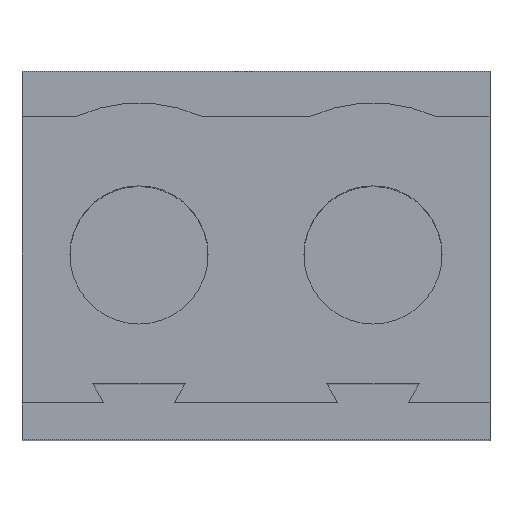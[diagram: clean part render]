
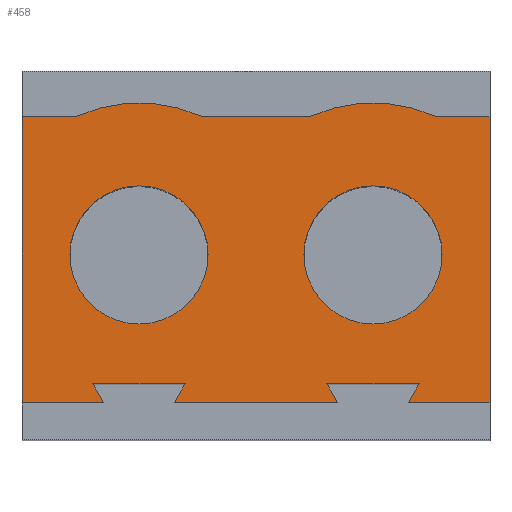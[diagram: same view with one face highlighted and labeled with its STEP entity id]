
A CAD part, top view. The second image highlights one B-rep face of the part: STEP entity #458.
In plain terms, the highlighted planar face has unit normal (0, 0, 1).
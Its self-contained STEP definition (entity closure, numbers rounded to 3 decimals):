
#87 = VERTEX_POINT('',#88);
#88 = CARTESIAN_POINT('',(-2.54,-3.2,18.9));
#94 = EDGE_CURVE('',#87,#95,#97,.T.);
#95 = VERTEX_POINT('',#96);
#96 = CARTESIAN_POINT('',(-2.54,3.,18.9));
#97 = LINE('',#98,#99);
#98 = CARTESIAN_POINT('',(-2.54,-3.2,18.9));
#99 = VECTOR('',#100,1.);
#100 = DIRECTION('',(0.,1.,0.));
#150 = VERTEX_POINT('',#151);
#151 = CARTESIAN_POINT('',(7.62,3.,18.9));
#157 = EDGE_CURVE('',#150,#158,#160,.T.);
#158 = VERTEX_POINT('',#159);
#159 = CARTESIAN_POINT('',(7.62,-3.2,18.9));
#160 = LINE('',#161,#162);
#161 = CARTESIAN_POINT('',(7.62,3.,18.9));
#162 = VECTOR('',#163,1.);
#163 = DIRECTION('',(0.,-1.,0.));
#439 = VERTEX_POINT('',#440);
#440 = CARTESIAN_POINT('',(-0.769,-3.2,18.9));
#446 = EDGE_CURVE('',#439,#87,#447,.T.);
#447 = LINE('',#448,#449);
#448 = CARTESIAN_POINT('',(-0.769,-3.2,18.9));
#449 = VECTOR('',#450,1.);
#450 = DIRECTION('',(-1.,0.,0.));
#458 = ADVANCED_FACE('',(#459,#566,#577),#588,.T.);
#459 = FACE_BOUND('',#460,.T.);
#460 = EDGE_LOOP('',(#461,#472,#478,#479,#480,#488,#496,#504,#512,#520,
    #528,#536,#542,#543,#551,#560));
#461 = ORIENTED_EDGE('',*,*,#462,.T.);
#462 = EDGE_CURVE('',#463,#465,#467,.T.);
#463 = VERTEX_POINT('',#464);
#464 = CARTESIAN_POINT('',(1.375,3.,18.9));
#465 = VERTEX_POINT('',#466);
#466 = CARTESIAN_POINT('',(-1.375,3.,18.9));
#467 = CIRCLE('',#468,3.3);
#468 = AXIS2_PLACEMENT_3D('',#469,#470,#471);
#469 = CARTESIAN_POINT('',(0.,0.,18.9));
#470 = DIRECTION('',(0.,0.,1.));
#471 = DIRECTION('',(1.,0.,0.));
#472 = ORIENTED_EDGE('',*,*,#473,.T.);
#473 = EDGE_CURVE('',#465,#95,#474,.T.);
#474 = LINE('',#475,#476);
#475 = CARTESIAN_POINT('',(-1.375,3.,18.9));
#476 = VECTOR('',#477,1.);
#477 = DIRECTION('',(-1.,0.,0.));
#478 = ORIENTED_EDGE('',*,*,#94,.F.);
#479 = ORIENTED_EDGE('',*,*,#446,.F.);
#480 = ORIENTED_EDGE('',*,*,#481,.T.);
#481 = EDGE_CURVE('',#439,#482,#484,.T.);
#482 = VERTEX_POINT('',#483);
#483 = CARTESIAN_POINT('',(-1.,-2.8,18.9));
#484 = LINE('',#485,#486);
#485 = CARTESIAN_POINT('',(-0.769,-3.2,18.9));
#486 = VECTOR('',#487,1.);
#487 = DIRECTION('',(-0.5,0.866,0.));
#488 = ORIENTED_EDGE('',*,*,#489,.T.);
#489 = EDGE_CURVE('',#482,#490,#492,.T.);
#490 = VERTEX_POINT('',#491);
#491 = CARTESIAN_POINT('',(1.,-2.8,18.9));
#492 = LINE('',#493,#494);
#493 = CARTESIAN_POINT('',(-1.,-2.8,18.9));
#494 = VECTOR('',#495,1.);
#495 = DIRECTION('',(1.,0.,0.));
#496 = ORIENTED_EDGE('',*,*,#497,.T.);
#497 = EDGE_CURVE('',#490,#498,#500,.T.);
#498 = VERTEX_POINT('',#499);
#499 = CARTESIAN_POINT('',(0.769,-3.2,18.9));
#500 = LINE('',#501,#502);
#501 = CARTESIAN_POINT('',(1.,-2.8,18.9));
#502 = VECTOR('',#503,1.);
#503 = DIRECTION('',(-0.5,-0.866,0.));
#504 = ORIENTED_EDGE('',*,*,#505,.F.);
#505 = EDGE_CURVE('',#506,#498,#508,.T.);
#506 = VERTEX_POINT('',#507);
#507 = CARTESIAN_POINT('',(4.311,-3.2,18.9));
#508 = LINE('',#509,#510);
#509 = CARTESIAN_POINT('',(4.311,-3.2,18.9));
#510 = VECTOR('',#511,1.);
#511 = DIRECTION('',(-1.,0.,0.));
#512 = ORIENTED_EDGE('',*,*,#513,.T.);
#513 = EDGE_CURVE('',#506,#514,#516,.T.);
#514 = VERTEX_POINT('',#515);
#515 = CARTESIAN_POINT('',(4.08,-2.8,18.9));
#516 = LINE('',#517,#518);
#517 = CARTESIAN_POINT('',(4.311,-3.2,18.9));
#518 = VECTOR('',#519,1.);
#519 = DIRECTION('',(-0.5,0.866,0.));
#520 = ORIENTED_EDGE('',*,*,#521,.T.);
#521 = EDGE_CURVE('',#514,#522,#524,.T.);
#522 = VERTEX_POINT('',#523);
#523 = CARTESIAN_POINT('',(6.08,-2.8,18.9));
#524 = LINE('',#525,#526);
#525 = CARTESIAN_POINT('',(4.08,-2.8,18.9));
#526 = VECTOR('',#527,1.);
#527 = DIRECTION('',(1.,0.,0.));
#528 = ORIENTED_EDGE('',*,*,#529,.T.);
#529 = EDGE_CURVE('',#522,#530,#532,.T.);
#530 = VERTEX_POINT('',#531);
#531 = CARTESIAN_POINT('',(5.849,-3.2,18.9));
#532 = LINE('',#533,#534);
#533 = CARTESIAN_POINT('',(6.08,-2.8,18.9));
#534 = VECTOR('',#535,1.);
#535 = DIRECTION('',(-0.5,-0.866,0.));
#536 = ORIENTED_EDGE('',*,*,#537,.F.);
#537 = EDGE_CURVE('',#158,#530,#538,.T.);
#538 = LINE('',#539,#540);
#539 = CARTESIAN_POINT('',(7.62,-3.2,18.9));
#540 = VECTOR('',#541,1.);
#541 = DIRECTION('',(-1.,0.,0.));
#542 = ORIENTED_EDGE('',*,*,#157,.F.);
#543 = ORIENTED_EDGE('',*,*,#544,.F.);
#544 = EDGE_CURVE('',#545,#150,#547,.T.);
#545 = VERTEX_POINT('',#546);
#546 = CARTESIAN_POINT('',(6.455,3.,18.9));
#547 = LINE('',#548,#549);
#548 = CARTESIAN_POINT('',(6.455,3.,18.9));
#549 = VECTOR('',#550,1.);
#550 = DIRECTION('',(1.,0.,0.));
#551 = ORIENTED_EDGE('',*,*,#552,.T.);
#552 = EDGE_CURVE('',#545,#553,#555,.T.);
#553 = VERTEX_POINT('',#554);
#554 = CARTESIAN_POINT('',(3.705,3.,18.9));
#555 = CIRCLE('',#556,3.3);
#556 = AXIS2_PLACEMENT_3D('',#557,#558,#559);
#557 = CARTESIAN_POINT('',(5.08,0.,18.9));
#558 = DIRECTION('',(0.,0.,1.));
#559 = DIRECTION('',(1.,0.,0.));
#560 = ORIENTED_EDGE('',*,*,#561,.T.);
#561 = EDGE_CURVE('',#553,#463,#562,.T.);
#562 = LINE('',#563,#564);
#563 = CARTESIAN_POINT('',(3.705,3.,18.9));
#564 = VECTOR('',#565,1.);
#565 = DIRECTION('',(-1.,0.,0.));
#566 = FACE_BOUND('',#567,.T.);
#567 = EDGE_LOOP('',(#568));
#568 = ORIENTED_EDGE('',*,*,#569,.F.);
#569 = EDGE_CURVE('',#570,#570,#572,.T.);
#570 = VERTEX_POINT('',#571);
#571 = CARTESIAN_POINT('',(1.5,0.,18.9));
#572 = CIRCLE('',#573,1.5);
#573 = AXIS2_PLACEMENT_3D('',#574,#575,#576);
#574 = CARTESIAN_POINT('',(0.,0.,18.9));
#575 = DIRECTION('',(0.,0.,1.));
#576 = DIRECTION('',(1.,0.,0.));
#577 = FACE_BOUND('',#578,.T.);
#578 = EDGE_LOOP('',(#579));
#579 = ORIENTED_EDGE('',*,*,#580,.F.);
#580 = EDGE_CURVE('',#581,#581,#583,.T.);
#581 = VERTEX_POINT('',#582);
#582 = CARTESIAN_POINT('',(6.58,0.,18.9));
#583 = CIRCLE('',#584,1.5);
#584 = AXIS2_PLACEMENT_3D('',#585,#586,#587);
#585 = CARTESIAN_POINT('',(5.08,0.,18.9));
#586 = DIRECTION('',(0.,0.,1.));
#587 = DIRECTION('',(1.,0.,0.));
#588 = PLANE('',#589);
#589 = AXIS2_PLACEMENT_3D('',#590,#591,#592);
#590 = CARTESIAN_POINT('',(2.54,-0.244,18.9));
#591 = DIRECTION('',(0.,0.,1.));
#592 = DIRECTION('',(1.,0.,0.));
